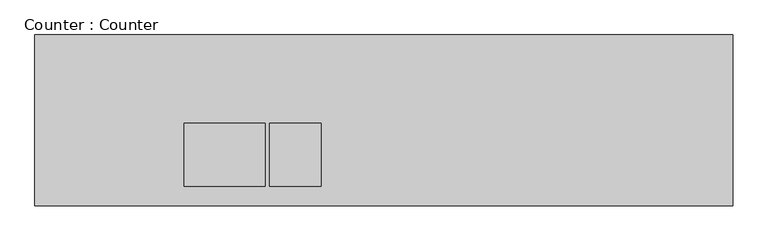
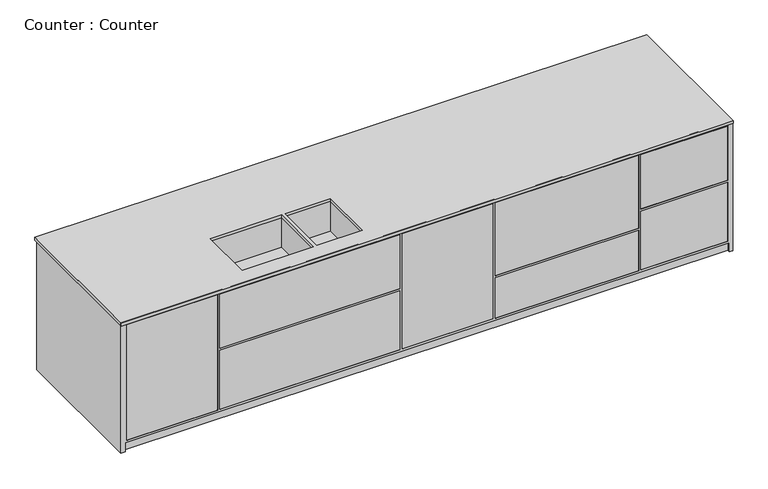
"""IFC4 building model written with IfcOpenShell, lengths in millimetres: furniture geometry, Counter : Counter."""

from ifc_helpers import new_model, si_unit, frame, origin, place, context, project, spatial, polyline, outline, extrude, faceted_brep, source, transform, mapped, element, save


def counter_counter_9db5bcc0(model_context):
    return source(origin(), model_context, "Body", "SolidModel", [
        extrude(outline(polyline([(1236.6564879, 2439.3596857), (1236.6564879, 1459.3596857), (-2763.3435121, 1459.3596857), (-2763.3435121, 2439.3596857), (1236.6564879, 2439.3596857)]), holes=[polyline([(-1442.4560542, 1933.3941692), (-1907.4560542, 1933.3941692), (-1907.4560542, 1573.3941692), (-1442.4560542, 1573.3941692), (-1442.4560542, 1933.3941692)]), polyline([(-1123.3827307, 1933.3941692), (-1419.0516575, 1933.3941692), (-1419.0516575, 1573.3941692), (-1123.3827307, 1573.3941692), (-1123.3827307, 1933.3941692)])]), frame((0.0, 0.0, 4284.3937535), z_axis=(0.0, 0.0, 1.0), x_axis=(1.0, 0.0, 0.0)), (0.0, 0.0, 1.0), 17.8831566),
        faceted_brep([(1236.6564879, 2419.3596857, 4302.2769101), (-2763.3435121, 2419.3596857, 4302.2769101), (-2763.3435121, 1465.8263793, 4302.2769101), (1236.6564879, 1465.8263793, 4302.2769101), (-1907.4560542, 1933.3941692, 4302.2769101), (-1442.4560542, 1933.3941692, 4302.2769101), (-1442.4560542, 1573.3941692, 4302.2769101), (-1907.4560542, 1573.3941692, 4302.2769101), (-1419.0516575, 1933.3941692, 4302.2769101), (-1123.3827307, 1933.3941692, 4302.2769101), (-1123.3827307, 1573.3941692, 4302.2769101), (-1419.0516575, 1573.3941692, 4302.2769101), (1236.6564879, 2419.3596857, 3400.0), (1236.6564879, 1465.8263793, 3400.0), (1216.6564879, 1465.8263793, 3400.0), (1216.6564879, 1484.3596857, 3400.0), (-2735.5437296, 1484.3596857, 3400.0), (-2735.5437296, 1465.8263793, 3400.0), (-2763.3435121, 1465.8263793, 3400.0), (-2763.3435121, 2419.3596857, 3400.0), (-2735.5437296, 2419.3596857, 3400.0), (-2735.5437296, 2400.8263793, 3400.0), (1216.6564879, 2400.8263793, 3400.0), (1216.6564879, 2419.3596857, 3400.0), (1216.6564879, 2419.3596857, 3462.767008), (-2735.5437296, 2419.3596857, 3462.767008), (-2137.4158296, 2419.3596857, 4274.0271865), (-2723.3435121, 2419.3596857, 4274.0271865), (-2723.3435121, 2419.3596857, 3477.5430124), (-2137.4158296, 2419.3596857, 3477.5430124), (1204.4457291, 2419.3596857, 4274.0271865), (574.8011783, 2419.3596857, 4274.0271865), (574.8011783, 2419.3596857, 3477.5430124), (1204.4457291, 2419.3596857, 3477.5430124), (-1537.4158296, 2419.3596857, 4274.0271865), (-2123.3435121, 2419.3596857, 4274.0271865), (-2123.3435121, 2419.3596857, 3477.5430124), (-1537.4158296, 2419.3596857, 3477.5430124), (-934.9158296, 2419.3596857, 4274.0271865), (-1520.8435121, 2419.3596857, 4274.0271865), (-1520.8435121, 2419.3596857, 3477.5430124), (-934.9158296, 2419.3596857, 3477.5430124), (-334.9158296, 2419.3596857, 4274.0271865), (-920.8435121, 2419.3596857, 4274.0271865), (-920.8435121, 2419.3596857, 3477.5430124), (-334.9158296, 2419.3596857, 3477.5430124), (105.0841704, 2419.3596857, 4274.0271865), (-319.9158296, 2419.3596857, 4274.0271865), (-319.9158296, 2419.3596857, 3477.5430124), (105.0841704, 2419.3596857, 3477.5430124), (564.8011783, 2419.3596857, 4274.0271865), (120.0841704, 2419.3596857, 4274.0271865), (120.0841704, 2419.3596857, 3477.5430124), (564.8011783, 2419.3596857, 3477.5430124), (-2735.5437296, 1465.8263793, 3462.767008), (1216.6564879, 1465.8263793, 3462.767008), (-2723.3435121, 1465.8263793, 4274.0271865), (-2130.4081223, 1465.8263793, 4274.0271865), (-2130.4081223, 1465.8263793, 3477.5430124), (-2723.3435121, 1465.8263793, 3477.5430124), (-923.3435121, 1465.8263793, 4274.0271865), (-330.4081223, 1465.8263793, 4274.0271865), (-330.4081223, 1465.8263793, 3477.5430124), (-923.3435121, 1465.8263793, 3477.5430124), (-2117.4560542, 1465.8263793, 4274.0271865), (-938.3982622, 1465.8263793, 4274.0271865), (-938.3982622, 1465.8263793, 3898.9420429), (-2117.4560542, 1465.8263793, 3898.9420429), (-2117.4560542, 1465.8263793, 3885.0), (-938.3982622, 1465.8263793, 3885.0), (-938.3982622, 1465.8263793, 3477.5430124), (-2117.4560542, 1465.8263793, 3477.5430124), (636.6564879, 1465.8263793, 4274.0271865), (1204.4457291, 1465.8263793, 4274.0271865), (1204.4457291, 1465.8263793, 3898.9420429), (636.6564879, 1465.8263793, 3898.9420429), (636.6564879, 1465.8263793, 3885.0), (1204.4457291, 1465.8263793, 3885.0), (1204.4457291, 1465.8263793, 3477.5430124), (636.6564879, 1465.8263793, 3477.5430124), (-315.4081223, 1465.8263793, 3756.9804704), (622.7758352, 1465.8263793, 3756.9804704), (622.7758352, 1465.8263793, 3477.5430124), (-315.4081223, 1465.8263793, 3477.5430124), (-315.4081223, 1465.8263793, 4274.0271865), (622.7758352, 1465.8263793, 4274.0271865), (622.7758352, 1465.8263793, 3771.5339748), (-315.4081223, 1465.8263793, 3771.5339748), (-1907.4560542, 1933.3941692, 4079.1096832), (-1442.4560542, 1933.3941692, 4079.1096832), (-1907.4560542, 1573.3941692, 4079.1096832), (-1442.4560542, 1573.3941692, 4079.1096832), (-1419.0516575, 1933.3941692, 4079.1096832), (-1123.3827307, 1933.3941692, 4079.1096832), (-1419.0516575, 1573.3941692, 4079.1096832), (-1123.3827307, 1573.3941692, 4079.1096832), (-2735.5437296, 1484.3596857, 3462.767008), (1216.6564879, 1484.3596857, 3462.767008), (1216.6564879, 2400.8263793, 3462.767008), (-2735.5437296, 2400.8263793, 3462.767008), (-2723.3435121, 1466.6832547, 4274.0271865), (-2130.4081223, 1466.6832547, 4274.0271865), (-2130.4081223, 1466.6832547, 3477.5430124), (-2723.3435121, 1466.6832547, 3477.5430124), (-923.3435121, 1466.6832547, 4274.0271865), (-330.4081223, 1466.6832547, 4274.0271865), (-330.4081223, 1466.6832547, 3477.5430124), (-923.3435121, 1466.6832547, 3477.5430124), (-2117.4560542, 1466.6832547, 4274.0271865), (-938.3982622, 1466.6832547, 4274.0271865), (-938.3982622, 1466.6832547, 3898.9420429), (-2117.4560542, 1466.6832547, 3898.9420429), (-2117.4560542, 1466.6832547, 3885.0), (-938.3982622, 1466.6832547, 3885.0), (-938.3982622, 1466.6832547, 3477.5430124), (-2117.4560542, 1466.6832547, 3477.5430124), (636.6564879, 1466.6832547, 4274.0271865), (1204.4457291, 1466.6832547, 4274.0271865), (1204.4457291, 1466.6832547, 3898.9420429), (636.6564879, 1466.6832547, 3898.9420429), (636.6564879, 1466.6832547, 3885.0), (1204.4457291, 1466.6832547, 3885.0), (1204.4457291, 1466.6832547, 3477.5430124), (636.6564879, 1466.6832547, 3477.5430124), (-315.4081223, 1466.6832547, 3756.9804704), (622.7758352, 1466.6832547, 3756.9804704), (622.7758352, 1466.6832547, 3477.5430124), (-315.4081223, 1466.6832547, 3477.5430124), (-315.4081223, 1466.6832547, 4274.0271865), (622.7758352, 1466.6832547, 4274.0271865), (622.7758352, 1466.6832547, 3771.5339748), (-315.4081223, 1466.6832547, 3771.5339748), (-2137.4158296, 2418.5028104, 4274.0271865), (-2723.3435121, 2418.5028104, 4274.0271865), (-2723.3435121, 2418.5028104, 3477.5430124), (-2137.4158296, 2418.5028104, 3477.5430124), (1204.4457291, 2418.5028104, 4274.0271865), (574.8011783, 2418.5028104, 4274.0271865), (574.8011783, 2418.5028104, 3477.5430124), (1204.4457291, 2418.5028104, 3477.5430124), (-1537.4158296, 2418.5028104, 4274.0271865), (-2123.3435121, 2418.5028104, 4274.0271865), (-2123.3435121, 2418.5028104, 3477.5430124), (-1537.4158296, 2418.5028104, 3477.5430124), (-934.9158296, 2418.5028104, 4274.0271865), (-1520.8435121, 2418.5028104, 4274.0271865), (-1520.8435121, 2418.5028104, 3477.5430124), (-934.9158296, 2418.5028104, 3477.5430124), (-334.9158296, 2418.5028104, 4274.0271865), (-920.8435121, 2418.5028104, 4274.0271865), (-920.8435121, 2418.5028104, 3477.5430124), (-334.9158296, 2418.5028104, 3477.5430124), (105.0841704, 2418.5028104, 4274.0271865), (-319.9158296, 2418.5028104, 4274.0271865), (-319.9158296, 2418.5028104, 3477.5430124), (105.0841704, 2418.5028104, 3477.5430124), (564.8011783, 2418.5028104, 4274.0271865), (120.0841704, 2418.5028104, 4274.0271865), (120.0841704, 2418.5028104, 3477.5430124), (564.8011783, 2418.5028104, 3477.5430124)], [[[0, 1, 2, 3], [4, 5, 6, 7], [8, 9, 10, 11]], [[12, 13, 14, 15, 16, 17, 18, 19, 20, 21, 22, 23]], [[1, 0, 12, 23, 24, 25, 20, 19], [26, 27, 28, 29], [30, 31, 32, 33], [34, 35, 36, 37], [38, 39, 40, 41], [42, 43, 44, 45], [46, 47, 48, 49], [50, 51, 52, 53]], [[2, 1, 19, 18]], [[3, 2, 18, 17, 54, 55, 14, 13], [56, 57, 58, 59], [60, 61, 62, 63], [64, 65, 66, 67], [68, 69, 70, 71], [72, 73, 74, 75], [76, 77, 78, 79], [80, 81, 82, 83], [84, 85, 86, 87]], [[0, 3, 13, 12]], [[88, 89, 5, 4]], [[90, 88, 4, 7]], [[91, 90, 7, 6]], [[89, 91, 6, 5]], [[92, 93, 9, 8]], [[94, 92, 8, 11]], [[95, 94, 11, 10]], [[93, 95, 10, 9]], [[89, 88, 90, 91]], [[93, 92, 94, 95]], [[96, 97, 55, 54]], [[97, 15, 14, 55]], [[97, 96, 16, 15]], [[16, 96, 54, 17]], [[98, 99, 25, 24]], [[22, 98, 24, 23]], [[99, 98, 22, 21]], [[99, 21, 20, 25]], [[100, 101, 57, 56]], [[102, 103, 59, 58]], [[101, 100, 103, 102]], [[103, 100, 56, 59]], [[101, 102, 58, 57]], [[104, 105, 61, 60]], [[106, 107, 63, 62]], [[105, 104, 107, 106]], [[107, 104, 60, 63]], [[105, 106, 62, 61]], [[108, 109, 65, 64]], [[110, 111, 67, 66]], [[109, 108, 111, 110]], [[111, 108, 64, 67]], [[109, 110, 66, 65]], [[112, 113, 69, 68]], [[114, 115, 71, 70]], [[113, 112, 115, 114]], [[115, 112, 68, 71]], [[113, 114, 70, 69]], [[116, 117, 73, 72]], [[118, 119, 75, 74]], [[117, 116, 119, 118]], [[119, 116, 72, 75]], [[117, 118, 74, 73]], [[120, 121, 77, 76]], [[122, 123, 79, 78]], [[121, 120, 123, 122]], [[123, 120, 76, 79]], [[121, 122, 78, 77]], [[124, 125, 81, 80]], [[126, 127, 83, 82]], [[125, 124, 127, 126]], [[127, 124, 80, 83]], [[125, 126, 82, 81]], [[128, 129, 85, 84]], [[130, 131, 87, 86]], [[129, 128, 131, 130]], [[131, 128, 84, 87]], [[129, 130, 86, 85]], [[132, 133, 27, 26]], [[134, 135, 29, 28]], [[133, 132, 135, 134]], [[133, 134, 28, 27]], [[135, 132, 26, 29]], [[136, 137, 31, 30]], [[138, 139, 33, 32]], [[137, 136, 139, 138]], [[137, 138, 32, 31]], [[139, 136, 30, 33]], [[140, 141, 35, 34]], [[142, 143, 37, 36]], [[141, 140, 143, 142]], [[141, 142, 36, 35]], [[143, 140, 34, 37]], [[144, 145, 39, 38]], [[146, 147, 41, 40]], [[145, 144, 147, 146]], [[145, 146, 40, 39]], [[147, 144, 38, 41]], [[148, 149, 43, 42]], [[150, 151, 45, 44]], [[149, 148, 151, 150]], [[149, 150, 44, 43]], [[151, 148, 42, 45]], [[152, 153, 47, 46]], [[154, 155, 49, 48]], [[153, 152, 155, 154]], [[153, 154, 48, 47]], [[155, 152, 46, 49]], [[156, 157, 51, 50]], [[158, 159, 53, 52]], [[157, 156, 159, 158]], [[157, 158, 52, 51]], [[159, 156, 50, 53]]]),
    ])


if __name__ == "__main__":
    model = new_model("IFC4")
    model_context = context("Model", 3, world=origin())
    ifc_project = project(units=[si_unit("LENGTHUNIT", "METRE", prefix="MILLI")], contexts=[model_context])
    site = spatial("IfcSite", under=ifc_project)
    building = spatial("IfcBuilding", under=site)
    placement = place(None, origin())
    counter_counter_shape = counter_counter_9db5bcc0(model_context)
    element("IfcFurniture", 1, ObjectType="Counter : Counter", at=placement, inside=building, context=model_context, shape_type="MappedRepresentation", body=[
        mapped(counter_counter_shape, transform((0.0, 0.0, 0.0), x_axis=(1.0, 0.0, 0.0), y_axis=(0.0, 1.0, 0.0), z_axis=(0.0, 0.0, 1.0))),
    ])
    save(model, "model.ifc")
